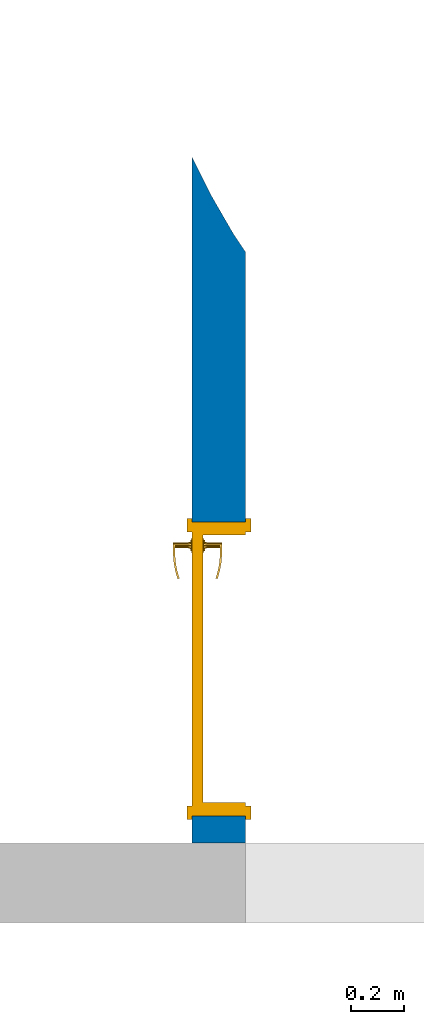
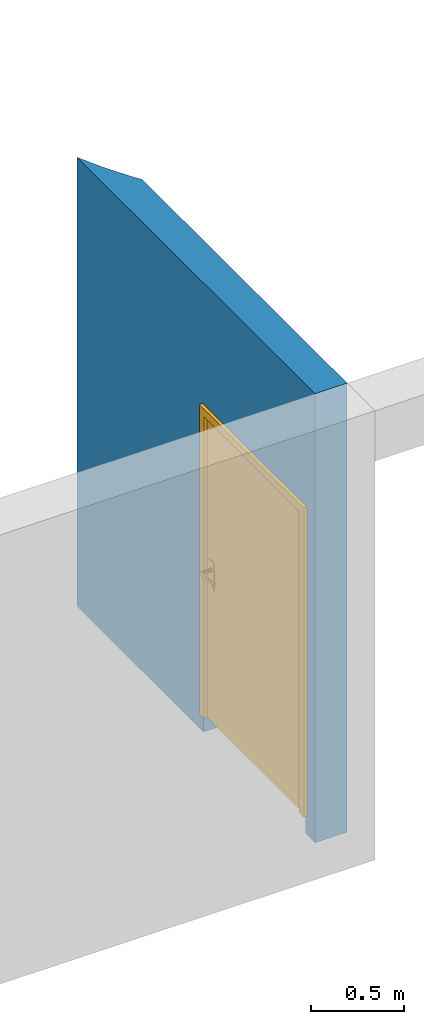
# One storey, part 3 of 6: 1 door, 1 wall, 1 opening.
"""IFC4 building model written with IfcOpenShell, lengths in millimetres."""

from ifc_helpers import new_model, entity, si_unit, converted_unit, derived_unit, direction, frame, origin_with_axes, place, context, subcontext, project, spatial, polygons, material, constituent, constituent_set, type_object, element, fill, save


model = new_model("IFC4")

# Units and contexts
model_context = context("Model", 3, precision=0.01, world=origin_with_axes(), true_north=direction((0.0, 1.0)))
body_context = subcontext(model_context, "Body", "Model", "MODEL_VIEW")
ifc_project = project(units=[si_unit("LENGTHUNIT", "METRE", prefix="MILLI"), si_unit("AREAUNIT", "SQUARE_METRE"), si_unit("VOLUMEUNIT", "CUBIC_METRE"), converted_unit("PLANEANGLEUNIT", "DEGREE", entity("IfcPlaneAngleMeasure", 0.0174532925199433), si_unit("PLANEANGLEUNIT", "RADIAN"), dimensions=[0, 0, 0, 0, 0, 0, 0]), converted_unit("TIMEUNIT", "Year", entity("IfcTimeMeasure", 31557600.0), si_unit("TIMEUNIT", "SECOND"), dimensions=[0, 0, 1, 0, 0, 0, 0]), si_unit("MASSUNIT", "GRAM", prefix="KILO"), si_unit("THERMODYNAMICTEMPERATUREUNIT", "DEGREE_CELSIUS"), si_unit("LUMINOUSINTENSITYUNIT", "LUMEN"), si_unit("ENERGYUNIT", "JOULE", prefix="MEGA"), derived_unit("THERMALCONDUCTANCEUNIT", [(si_unit("POWERUNIT", "WATT"), 1), (si_unit("LENGTHUNIT", "METRE"), -1), (si_unit("THERMODYNAMICTEMPERATUREUNIT", "KELVIN"), -1)]), derived_unit("SPECIFICHEATCAPACITYUNIT", [(si_unit("ENERGYUNIT", "JOULE"), 1), (si_unit("MASSUNIT", "GRAM", prefix="KILO"), -1), (si_unit("THERMODYNAMICTEMPERATUREUNIT", "KELVIN"), -1)]), derived_unit("MASSDENSITYUNIT", [(si_unit("MASSUNIT", "GRAM", prefix="KILO"), 1), (si_unit("VOLUMEUNIT", "CUBIC_METRE"), -1)])], contexts=[model_context])

# Site, building, storey
site_placement = place(None, origin_with_axes())
site = spatial("IfcSite", under=ifc_project, at=site_placement, Name="Exteriér", CompositionType="ELEMENT")
building_placement = place(site_placement, origin_with_axes())
building = spatial("IfcBuilding", under=site, at=building_placement, Name="Univerzitní lezecké centrum", CompositionType="ELEMENT")
storey_placement = place(building_placement, origin_with_axes())
storey = spatial("IfcBuildingStorey", under=building, at=storey_placement, Name="1.NP", CompositionType="ELEMENT", Elevation=0.0)

# Wall, opening, door
ifc_material = material(Name="Beton vyztužený - vnitřní svislé kce")
ifc_constituent = constituent(ifc_material, Name="Beton vyztužený - vnitřní svislé kce")
ifc_constituent_set = constituent_set(constituents=[ifc_constituent], Name="!Vnitřní betonová stěna 200 mm")
wall_type = type_object("IfcWallType", Name="!Vnitřní betonová stěna 200 mm 200", PredefinedType="NOTDEFINED")
wall_placement = place(storey_placement, frame((199.7521361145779, 2610.480756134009, -120.000000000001), z_axis=(0.0, 0.0, 1.0), x_axis=(9.494986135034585e-05, -0.9999999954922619, 0.0)))
wall = element("IfcWall", 1, at=wall_placement, inside=storey, type_object=wall_type, material=ifc_constituent_set, Name="St05", PredefinedType="NOTDEFINED", context=body_context, shape_type="Tessellation", body=[
    polygons([(1410.461746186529, -199.9998917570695, 0.4999999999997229), (1410.461665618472, -5.970421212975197e-05, 0.4999999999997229), (1410.461782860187, -6.705527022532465e-06, 120.000000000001), (1410.461782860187, -199.999999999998, 120.000000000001), (1410.461665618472, -5.970421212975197e-05, 0.0), (1410.461746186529, -199.9998917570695, 0.0), (2510.461828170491, 2.1218390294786e-05, 0.0), (2510.461828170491, 2.1218390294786e-05, 0.4999999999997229), (2510.461782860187, -6.705528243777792e-06, 120.000000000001), (2510.461782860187, 0.0, 2140.000000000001), (1410.461782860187, 0.0, 2140.000000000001), (402.8744665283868, -6.705528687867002e-06, 0.0), (402.8744665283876, -6.705528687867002e-06, 2950.000000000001), (2610.480767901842, 4.917388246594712e-06, 2950.000000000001), (2610.480767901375, 0.0, 0.0), (1410.461782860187, -199.9999999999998, 2140.000000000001), (2510.461667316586, -200.0000522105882, 0.4999999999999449), (2510.461667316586, -200.0000522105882, 0.0), (2610.461777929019, -199.9999999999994, 0.0), (2610.461777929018, -199.9999999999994, 2950.000000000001), (47.00298818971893, -199.9999999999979, 2950.000000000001), (47.00298818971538, -199.9999999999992, 0.0), (2510.461782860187, -199.9999999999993, 2140.000000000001), (2510.461782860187, -199.9999999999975, 120.000000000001), (87.14444738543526, -180.0162361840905, 0.0), (186.242514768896, -131.0410473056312, 0.0), (334.702251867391, -45.34657207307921, 0.0), (334.702251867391, -45.34657207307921, 2950.000000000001), (186.242514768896, -131.0410473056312, 2950.000000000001), (87.14444738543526, -180.0162361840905, 2950.000000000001)], [[[1, 2, 3, 4]], [[5, 2, 1, 6]], [[7, 8, 9, 10, 11, 3, 2, 5, 12, 13, 14, 15]], [[4, 3, 11, 16]], [[17, 18, 19, 20, 21, 22, 6, 1, 4, 16, 23, 24]], [[5, 6, 22, 25, 26, 27, 12]], [[17, 8, 7, 18]], [[8, 17, 24, 9]], [[23, 10, 9, 24]], [[16, 11, 10, 23]], [[27, 28, 13, 12]], [[20, 14, 13, 28, 29, 30, 21]], [[15, 14, 20, 19]], [[18, 7, 15, 19]], [[22, 21, 30, 25]], [[25, 30, 29, 26]], [[26, 29, 28, 27]]], closed=True),
])
opening_placement = place(wall_placement, frame((1960.461782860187, 0.0, 120.000000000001), z_axis=(0.0, 0.0, 1.0), x_axis=(1.0, 0.0, 0.0)))
opening = element("IfcOpeningElement", 2, at=opening_placement, cuts=wall, Name="D13", context=body_context, identifier="Reference", shape_type="Tessellation", body=[
    polygons([(-550.0000000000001, -199.9999999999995, 2020.0), (550.0, -199.9999999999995, 2020.0), (550.0, 0.0, 2020.0), (-550.0000000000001, 0.0, 2020.0), (550.0000000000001, -199.9999999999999, 0.0), (-550.0000000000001, -199.9999999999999, 0.0), (-562.0000000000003, -199.9999999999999, 0.0), (-562.0000000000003, -199.9999999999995, 2032.0), (562.0, -199.9999999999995, 2032.0), (562.0, -199.9999999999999, 0.0), (550.0000000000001, 0.0, 0.0), (562.0, 0.0, 0.0), (562.0, 0.0, 2032.0), (-562.0000000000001, 0.0, 2032.0), (-562.0000000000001, 0.0, 0.0), (-549.9999999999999, 0.0, 0.0), (-550.0000000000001, -201.2763497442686, 0.0), (-562.0000000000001, -201.2763497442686, 0.0), (-562.0000000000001, -201.2763497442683, 2032.0), (562.0, -201.2763497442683, 2032.0), (562.0, -201.2763497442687, 0.0), (550.0000000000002, -201.2763497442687, 0.0), (-550.0000000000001, 1.276349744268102, 0.0), (550.0, 1.276349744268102, 0.0), (562.0, 1.276349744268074, 0.0), (562.0, 1.276349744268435, 2032.0), (-562.0000000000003, 1.27634974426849, 2032.0), (-562.0000000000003, 1.276349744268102, 0.0), (-550.0000000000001, -201.2763497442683, 2020.0), (549.9999999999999, -201.2763497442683, 2020.0)], [[[1, 2, 3, 4]], [[5, 2, 1, 6, 7, 8, 9, 10]], [[2, 5, 11, 3]], [[4, 3, 11, 12, 13, 14, 15, 16]], [[6, 1, 4, 16]], [[6, 17, 18, 7]], [[8, 7, 18, 19]], [[9, 8, 19, 20]], [[10, 9, 20, 21]], [[22, 5, 10, 21]], [[17, 6, 16, 23, 24, 11, 5, 22]], [[11, 24, 25, 12]], [[13, 12, 25, 26]], [[14, 13, 26, 27]], [[15, 14, 27, 28]], [[23, 16, 15, 28]], [[29, 30, 22, 21, 20, 19, 18, 17]], [[24, 23, 28, 27, 26, 25]], [[29, 17, 22, 30]]], closed=True),
])
door_type = type_object("IfcDoorType", Name="Dveře 24", OperationType="SINGLE_SWING_LEFT", PredefinedType="NOTDEFINED")
door_placement = place(opening_placement, frame((500.0, 0.0, 0.0), z_axis=(0.0, 0.0, 1.0), x_axis=(-1.0, 0.0, 0.0)))
door = element("IfcDoor", 3, at=door_placement, inside=storey, type_object=door_type, Name="D13", OverallHeight=2020.0, OverallWidth=1100.0, PredefinedType="NOTDEFINED", context=body_context, shape_type="Tessellation", body=[
    polygons([(1062.0, 0.0, 0.0), (1062.0, -19.00000000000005, 0.0), (1012.0, -19.00000000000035, 0.0), (1012.0, 0.0, 0.0), (1062.0, 0.0, 2032.0), (1062.0, -19.00000000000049, 2032.0), (1012.0, -19.0000000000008, 1982.0), (1012.0, 0.0, 1982.0)], [[[1, 2, 3, 4]], [[5, 6, 2, 1]], [[3, 2, 6, 7]], [[4, 3, 7, 8]], [[5, 1, 4, 8]], [[8, 7, 6, 5]]], closed=True),
    polygons([(-61.99999999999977, 0.0, 2032.0), (-61.99999999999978, -19.00000000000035, 2032.0), (-11.99999999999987, -19.00000000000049, 1982.0), (-11.99999999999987, 0.0, 1982.0), (-61.99999999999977, 0.0, 0.0), (-61.99999999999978, -19.00000000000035, 0.0), (-11.99999999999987, -19.00000000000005, 0.0), (-11.99999999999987, 0.0, 0.0)], [[[1, 2, 3, 4]], [[5, 6, 2, 1]], [[3, 2, 6, 7]], [[4, 3, 7, 8]], [[5, 1, 4, 8]], [[8, 7, 6, 5]]], closed=True),
    polygons([(1012.0, 218.9999999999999, 0.0), (1062.0, 218.9999999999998, 0.0), (1062.0, 199.9999999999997, 0.0), (1012.0, 199.9999999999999, 0.0), (1062.0, 218.9999999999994, 2032.0), (1012.0, 218.9999999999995, 1982.0), (1062.0, 199.9999999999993, 2032.0), (1012.0, 199.9999999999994, 1982.0)], [[[1, 2, 3, 4]], [[5, 2, 1, 6]], [[2, 5, 7, 3]], [[4, 3, 7, 8]], [[6, 1, 4, 8]], [[5, 6, 8, 7]]], closed=True),
    polygons([(-11.99999999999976, 218.9999999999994, 1982.0), (-62.00000000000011, 218.9999999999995, 2032.0), (-62.00000000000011, 199.9999999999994, 2032.0), (-11.99999999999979, 199.9999999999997, 1982.0), (-62.00000000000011, 218.9999999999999, 0.0), (-11.99999999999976, 218.9999999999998, 0.0), (-62.00000000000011, 199.9999999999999, 0.0), (-11.99999999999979, 199.9999999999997, 0.0)], [[[1, 2, 3, 4]], [[5, 2, 1, 6]], [[2, 5, 7, 3]], [[4, 3, 7, 8]], [[6, 1, 4, 8]], [[5, 6, 8, 7]]], closed=True),
    polygons([(1000.0, 159.9999999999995, 1970.0), (1000.0, 159.9999999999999, 0.0), (1000.0, 0.0, 0.0), (1000.0, 0.0, 1970.0), (1012.0, 159.9999999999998, 1970.0), (1012.0, 159.9999999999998, 0.0), (1012.0, 199.9999999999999, 0.0), (1050.0, 199.9999999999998, 0.0), (1050.0, 0.0, 0.0), (1050.0, 0.0, 1970.0), (1012.0, 199.9999999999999, 1970.0), (1050.0, 199.9999999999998, 1970.0)], [[[1, 2, 3, 4]], [[1, 5, 6, 2]], [[2, 6, 7, 8, 9, 3]], [[4, 3, 9, 10]], [[11, 5, 1, 4, 10, 12]], [[5, 11, 7, 6]], [[7, 11, 12, 8]], [[9, 8, 12, 10]]], closed=True),
    polygons([(0.0, 159.9999999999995, 1970.0), (-11.99999999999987, 159.9999999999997, 1970.0), (-11.99999999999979, 199.9999999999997, 1970.0), (-49.99999999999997, 199.9999999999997, 1970.0), (-50.00000000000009, 0.0, 1970.0), (0.0, 0.0, 1970.0), (0.0, 160.0, 0.0), (-11.99999999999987, 159.9999999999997, 0.0), (-11.99999999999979, 199.9999999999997, 0.0), (-49.99999999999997, 199.9999999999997, 0.0), (-50.00000000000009, 0.0, 0.0), (0.0, 0.0, 0.0)], [[[1, 2, 3, 4, 5, 6]], [[2, 1, 7, 8]], [[3, 2, 8, 9]], [[3, 9, 10, 4]], [[5, 4, 10, 11]], [[6, 5, 11, 12]], [[7, 1, 6, 12]], [[9, 8, 7, 12, 11, 10]]], closed=True),
    polygons([(-11.99999999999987, 159.9999999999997, 0.0), (-11.99999999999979, 199.9999999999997, 0.0), (1012.0, 199.9999999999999, 0.0), (1012.0, 159.9999999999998, 0.0), (-11.99999999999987, 159.9999999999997, 1982.0), (-11.99999999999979, 199.9999999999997, 1982.0), (1012.0, 199.9999999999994, 1982.0), (1012.0, 159.9999999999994, 1982.0)], [[[1, 2, 3, 4]], [[5, 6, 2, 1]], [[3, 2, 6, 7]], [[4, 3, 7, 8]], [[5, 1, 4, 8]], [[8, 7, 6, 5]]], closed=True),
    polygons([(1062.0, -19.00000000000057, 2032.0), (1012.0, -19.00000000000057, 1982.0), (1012.0, 0.0, 1982.0), (1062.0, 0.0, 2032.0), (-62.0, -19.00000000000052, 2032.0), (-11.99999999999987, -19.00000000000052, 1982.0), (-11.99999999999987, 0.0, 1982.0), (-61.99999999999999, 0.0, 2032.0)], [[[1, 2, 3, 4]], [[1, 5, 6, 2]], [[2, 6, 7, 3]], [[4, 3, 7, 8]], [[5, 1, 4, 8]], [[6, 5, 8, 7]]], closed=True),
    polygons([(1062.0, 218.9999999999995, 2032.0), (1062.0, 199.9999999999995, 2032.0), (1012.0, 199.9999999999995, 1982.0), (1012.0, 218.9999999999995, 1982.0), (-62.0, 218.9999999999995, 2032.0), (-62.0, 199.9999999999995, 2032.0), (-11.9999999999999, 199.9999999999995, 1982.0), (-11.99999999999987, 218.9999999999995, 1982.0)], [[[1, 2, 3, 4]], [[5, 6, 2, 1]], [[2, 6, 7, 3]], [[4, 3, 7, 8]], [[1, 4, 8, 5]], [[8, 7, 6, 5]]], closed=True),
    polygons([(1012.0, 199.9999999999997, 1982.0), (-11.9999999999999, 199.9999999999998, 1982.0), (-11.9999999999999, 199.9999999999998, 1970.0), (-49.99999999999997, 199.9999999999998, 1970.0), (-49.99999999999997, 199.9999999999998, 2020.0), (1050.0, 199.9999999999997, 2020.0), (1050.0, 199.9999999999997, 1970.0), (1012.0, 199.9999999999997, 1970.0), (1012.0, 159.9999999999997, 1982.0), (-11.99999999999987, 159.9999999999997, 1982.0), (-11.99999999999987, 159.9999999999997, 1970.0), (0.0, 159.9999999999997, 1970.0), (0.0, 0.0, 1970.0), (-49.99999999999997, 0.0, 1970.0), (-49.99999999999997, 0.0, 2020.0), (1050.0, 0.0, 2020.0), (1050.0, 0.0, 1970.0), (1012.0, 159.9999999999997, 1970.0), (1000.0, 0.0, 1970.0), (1000.0, 159.9999999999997, 1970.0)], [[[1, 2, 3, 4, 5, 6, 7, 8]], [[1, 9, 10, 2]], [[2, 10, 11, 3]], [[11, 12, 13, 14, 4, 3]], [[5, 4, 14, 15]], [[6, 5, 15, 16]], [[7, 6, 16, 17]], [[18, 8, 7, 17, 19, 20]], [[8, 18, 9, 1]], [[11, 10, 9, 18, 20, 12]], [[20, 19, 13, 12]], [[13, 19, 17, 16, 15, 14]]], closed=True),
    polygons([(990.5, 159.9999999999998, 1060.0), (933.5000000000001, 159.9999999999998, 1060.0), (933.5000000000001, 156.9999999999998, 1060.0), (990.5000000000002, 156.9999999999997, 1060.0), (990.5, 159.9999999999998, 870.0), (933.5000000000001, 159.9999999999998, 870.0), (933.5000000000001, 156.9999999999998, 870.0), (990.5000000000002, 156.9999999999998, 870.0)], [[[1, 2, 3, 4]], [[1, 5, 6, 2]], [[2, 6, 7, 3]], [[4, 3, 7, 8]], [[5, 1, 4, 8]], [[6, 5, 8, 7]]], closed=True),
    polygons([(962.0000000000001, 95.99999999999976, 990.0), (967.0, 95.99999999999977, 991.3397459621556), (967.0, 88.99999999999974, 991.3397459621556), (962.0000000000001, 88.99999999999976, 990.0), (937.0000000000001, 95.99999999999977, 990.0), (937.0000000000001, 95.99999999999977, 1010.0), (962.0000000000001, 95.99999999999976, 1010.0), (967.0, 95.99999999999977, 1008.660254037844), (970.6602540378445, 95.99999999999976, 1005.0), (971.9999999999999, 95.99999999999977, 1000.0), (970.6602540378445, 95.99999999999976, 995.0), (970.6602540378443, 88.99999999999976, 995.0), (972.0000000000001, 88.99999999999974, 1000.0), (970.6602540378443, 88.99999999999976, 1005.0), (967.0, 88.99999999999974, 1008.660254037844), (962.0000000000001, 88.99999999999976, 1010.0), (937.0000000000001, 88.99999999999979, 1010.0), (937.0000000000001, 88.99999999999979, 990.0)], [[[1, 2, 3, 4]], [[1, 5, 6, 7, 8, 9, 10, 11, 2]], [[2, 11, 12, 3]], [[4, 3, 12, 13, 14, 15, 16, 17, 18]], [[5, 1, 4, 18]], [[6, 5, 18, 17]], [[7, 6, 17, 16]], [[8, 7, 16, 15]], [[9, 8, 15, 14]], [[10, 9, 14, 13]], [[11, 10, 13, 12]]], closed=True),
    polygons([(937.0000000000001, 95.99999999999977, 1010.0), (923.9017171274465, 95.99999999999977, 1009.607300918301), (923.5960905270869, 88.99999999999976, 1009.607300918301), (937.0000000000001, 95.99999999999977, 990.0), (923.9017171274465, 95.99999999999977, 990.3926990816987), (896.8902834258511, 91.33645537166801, 1008.821902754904), (937.0000000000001, 88.99999999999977, 1010.0), (937.0000000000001, 88.99999999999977, 990.0), (897.8048372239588, 98.2831811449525, 991.1780972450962), (897.8048372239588, 98.2831811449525, 1008.821902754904), (896.8902834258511, 91.33645537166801, 991.1780972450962), (923.5960905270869, 88.99999999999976, 990.3926990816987), (872.0062561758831, 102.8321670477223, 991.9634954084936), (872.0062561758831, 102.8321670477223, 1008.036504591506), (870.4897354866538, 95.99158427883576, 1008.036504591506), (870.4897354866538, 95.99158427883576, 991.9634954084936), (846.7023167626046, 109.6123371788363, 992.7488935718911), (846.7023167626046, 109.6123371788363, 1007.251106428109), (844.5953708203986, 102.9299583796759, 1007.251106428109), (844.5953708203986, 102.9299583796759, 992.7488935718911), (838.8294420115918, 112.4778292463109, 993.0), (838.8294420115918, 112.4778292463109, 1007.0), (836.538795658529, 105.8623119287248, 1007.0), (836.538795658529, 105.8623119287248, 993.0)], [[[1, 2, 3]], [[1, 4, 5, 2]], [[2, 6, 3]], [[1, 3, 7]], [[5, 4, 8]], [[2, 5, 9, 10]], [[2, 10, 6]], [[3, 6, 11, 12]], [[7, 3, 12, 8]], [[5, 8, 12]], [[9, 5, 12]], [[10, 9, 13, 14]], [[10, 15, 6]], [[6, 15, 16, 11]], [[9, 12, 11]], [[13, 9, 11]], [[14, 13, 17, 18]], [[10, 14, 15]], [[15, 19, 20, 16]], [[13, 11, 16]], [[17, 13, 16]], [[18, 17, 21, 22]], [[14, 18, 19]], [[14, 19, 15]], [[19, 23, 24, 20]], [[17, 16, 20]], [[21, 17, 20]], [[22, 21, 24, 23]], [[18, 22, 23]], [[18, 23, 19]], [[21, 20, 24]]], closed=False),
    polygons([(951.6076951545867, 146.9999999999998, 994.0), (950.0000000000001, 146.9999999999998, 1000.0), (949.0, 156.9999999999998, 1000.0), (950.7416697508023, 156.9999999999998, 993.5), (956.0000000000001, 146.9999999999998, 989.6076951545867), (961.9999999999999, 146.9999999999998, 988.0), (968.0000000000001, 146.9999999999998, 989.6076951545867), (972.3923048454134, 146.9999999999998, 994.0), (974.0000000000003, 146.9999999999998, 1000.0), (972.3923048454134, 146.9999999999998, 1006.0), (968.0000000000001, 146.9999999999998, 1010.392304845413), (961.9999999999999, 146.9999999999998, 1012.0), (956.0000000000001, 146.9999999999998, 1010.392304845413), (951.6076951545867, 146.9999999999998, 1006.0), (950.7416697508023, 156.9999999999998, 1006.5), (955.5000000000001, 156.9999999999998, 1011.258330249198), (961.9999999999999, 156.9999999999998, 1013.0), (968.5, 156.9999999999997, 1011.258330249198), (973.2583302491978, 156.9999999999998, 1006.5), (975.0000000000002, 156.9999999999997, 1000.0), (973.2583302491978, 156.9999999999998, 993.4999999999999), (968.5, 156.9999999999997, 988.7416697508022), (961.9999999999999, 156.9999999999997, 987.0), (955.5000000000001, 156.9999999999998, 988.7416697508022)], [[[1, 2, 3, 4]], [[2, 1, 5, 6, 7, 8, 9, 10, 11, 12, 13, 14]], [[2, 14, 15, 3]], [[3, 15, 16, 17, 18, 19, 20, 21, 22, 23, 24, 4]], [[5, 1, 4, 24]], [[6, 5, 24, 23]], [[7, 6, 23, 22]], [[8, 7, 22, 21]], [[9, 8, 21, 20]], [[10, 9, 20, 19]], [[11, 10, 19, 18]], [[12, 11, 18, 17]], [[13, 12, 17, 16]], [[14, 13, 16, 15]]], closed=True),
    polygons([(944.6794919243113, 152.9999999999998, 895.0), (942.0000000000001, 152.9999999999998, 905.0), (940.0000000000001, 156.9999999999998, 905.0), (942.9474411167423, 156.9999999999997, 894.0), (952.0000000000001, 152.9999999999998, 887.6794919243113), (962.0000000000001, 152.9999999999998, 885.0), (971.9999999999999, 152.9999999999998, 887.6794919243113), (979.3205080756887, 152.9999999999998, 895.0), (982.0000000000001, 152.9999999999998, 905.0), (979.3205080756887, 152.9999999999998, 915.0), (971.9999999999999, 152.9999999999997, 922.3205080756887), (962.0000000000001, 152.9999999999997, 925.0), (952.0000000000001, 152.9999999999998, 922.3205080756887), (944.6794919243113, 152.9999999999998, 915.0), (942.9474411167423, 156.9999999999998, 916.0), (951.0, 156.9999999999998, 924.0525588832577), (961.9999999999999, 156.9999999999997, 927.0), (973.0, 156.9999999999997, 924.0525588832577), (981.0525588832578, 156.9999999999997, 916.0), (983.9999999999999, 156.9999999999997, 905.0), (981.0525588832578, 156.9999999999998, 894.0), (973.0, 156.9999999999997, 885.9474411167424), (961.9999999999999, 156.9999999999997, 883.0), (951.0, 156.9999999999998, 885.9474411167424)], [[[1, 2, 3, 4]], [[2, 1, 5, 6, 7, 8, 9, 10, 11, 12, 13, 14]], [[2, 14, 15, 3]], [[3, 15, 16, 17, 18, 19, 20, 21, 22, 23, 24, 4]], [[5, 1, 4, 24]], [[6, 5, 24, 23]], [[7, 6, 23, 22]], [[8, 7, 22, 21]], [[9, 8, 21, 20]], [[10, 9, 20, 19]], [[11, 10, 19, 18]], [[12, 11, 18, 17]], [[13, 12, 17, 16]], [[14, 13, 16, 15]]], closed=True),
    polygons([(957.0502525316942, 150.9999999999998, 909.0502525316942), (955.0, 150.9999999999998, 914.0), (953.9999999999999, 152.9999999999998, 914.0), (956.3431457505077, 152.9999999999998, 908.3431457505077), (962.0000000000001, 150.9999999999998, 907.0), (966.9497474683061, 150.9999999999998, 909.0502525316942), (969.0000000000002, 150.9999999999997, 914.0), (966.9497474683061, 150.9999999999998, 918.9497474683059), (962.0000000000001, 150.9999999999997, 921.0), (957.0502525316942, 150.9999999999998, 918.9497474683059), (956.3431457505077, 152.9999999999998, 919.6568542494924), (962.0000000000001, 152.9999999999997, 922.0), (967.6568542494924, 152.9999999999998, 919.6568542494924), (970.0000000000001, 152.9999999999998, 914.0), (967.6568542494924, 152.9999999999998, 908.3431457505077), (962.0000000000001, 152.9999999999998, 906.0)], [[[1, 2, 3, 4]], [[2, 1, 5, 6, 7, 8, 9, 10]], [[2, 10, 11, 3]], [[3, 11, 12, 13, 14, 15, 16, 4]], [[5, 1, 4, 16]], [[6, 5, 16, 15]], [[7, 6, 15, 14]], [[8, 7, 14, 13]], [[9, 8, 13, 12]], [[10, 9, 12, 11]]], closed=True),
    polygons([(961.9999999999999, 146.9999999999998, 1010.0), (957.0, 146.9999999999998, 1008.660254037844), (957.0, 95.99999999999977, 1008.660254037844), (962.0000000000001, 95.99999999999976, 1010.0), (967.0, 146.9999999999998, 1008.660254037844), (970.6602540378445, 146.9999999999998, 1005.0), (972.0000000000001, 146.9999999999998, 1000.0), (970.6602540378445, 146.9999999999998, 995.0), (967.0, 146.9999999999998, 991.3397459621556), (961.9999999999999, 146.9999999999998, 990.0), (957.0, 146.9999999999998, 991.3397459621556), (953.3397459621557, 146.9999999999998, 995.0), (952.0000000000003, 146.9999999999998, 1000.0), (953.3397459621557, 146.9999999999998, 1005.0), (953.3397459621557, 95.99999999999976, 1005.0), (952.0000000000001, 95.99999999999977, 1000.0), (953.3397459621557, 95.99999999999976, 995.0), (957.0, 95.99999999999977, 991.3397459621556), (962.0000000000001, 95.99999999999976, 990.0), (967.0, 95.99999999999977, 991.3397459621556), (970.6602540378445, 95.99999999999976, 995.0), (971.9999999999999, 95.99999999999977, 1000.0), (970.6602540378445, 95.99999999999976, 1005.0), (967.0, 95.99999999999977, 1008.660254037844)], [[[1, 2, 3, 4]], [[1, 5, 6, 7, 8, 9, 10, 11, 12, 13, 14, 2]], [[2, 14, 15, 3]], [[4, 3, 15, 16, 17, 18, 19, 20, 21, 22, 23, 24]], [[5, 1, 4, 24]], [[6, 5, 24, 23]], [[7, 6, 23, 22]], [[8, 7, 22, 21]], [[9, 8, 21, 20]], [[10, 9, 20, 19]], [[11, 10, 19, 18]], [[12, 11, 18, 17]], [[13, 12, 17, 16]], [[14, 13, 16, 15]]], closed=True),
    polygons([(990.5000000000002, 199.9999999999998, 1060.0), (990.5, 202.9999999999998, 1060.0), (933.5000000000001, 202.9999999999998, 1060.0), (933.5000000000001, 199.9999999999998, 1060.0), (990.5000000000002, 199.9999999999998, 870.0), (990.5, 202.9999999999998, 870.0), (933.5000000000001, 202.9999999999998, 870.0), (933.5000000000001, 199.9999999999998, 870.0)], [[[1, 2, 3, 4]], [[5, 6, 2, 1]], [[2, 6, 7, 3]], [[4, 3, 7, 8]], [[1, 4, 8, 5]], [[8, 7, 6, 5]]], closed=True),
    polygons([(962.0000000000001, 263.9999999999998, 990.0), (962.0000000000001, 270.9999999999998, 990.0), (967.0, 270.9999999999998, 991.3397459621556), (967.0000000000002, 263.9999999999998, 991.3397459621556), (937.0, 263.9999999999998, 990.0), (937.0, 270.9999999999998, 990.0), (937.0, 270.9999999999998, 1010.0), (962.0000000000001, 270.9999999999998, 1010.0), (967.0, 270.9999999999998, 1008.660254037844), (970.6602540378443, 270.9999999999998, 1005.0), (972.0000000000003, 270.9999999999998, 1000.0), (970.6602540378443, 270.9999999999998, 995.0), (970.6602540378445, 263.9999999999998, 995.0), (972.0000000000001, 263.9999999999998, 1000.0), (970.6602540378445, 263.9999999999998, 1005.0), (967.0000000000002, 263.9999999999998, 1008.660254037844), (962.0000000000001, 263.9999999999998, 1010.0), (937.0, 263.9999999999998, 1010.0)], [[[1, 2, 3, 4]], [[5, 6, 2, 1]], [[2, 6, 7, 8, 9, 10, 11, 12, 3]], [[4, 3, 12, 13]], [[1, 4, 13, 14, 15, 16, 17, 18, 5]], [[18, 7, 6, 5]], [[17, 8, 7, 18]], [[16, 9, 8, 17]], [[15, 10, 9, 16]], [[14, 11, 10, 15]], [[13, 12, 11, 14]]], closed=True),
    polygons([(937.0, 263.9999999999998, 1010.0), (923.5960905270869, 270.9999999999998, 1009.607300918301), (923.9017171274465, 263.9999999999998, 1009.607300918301), (937.0, 270.9999999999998, 1010.0), (896.8902834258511, 268.6635446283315, 1008.821902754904), (923.9017171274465, 263.9999999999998, 990.3926990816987), (937.0, 263.9999999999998, 990.0), (937.0, 270.9999999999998, 990.0), (923.5960905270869, 270.9999999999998, 990.3926990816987), (896.8902834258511, 268.6635446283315, 991.1780972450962), (897.8048372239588, 261.7168188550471, 1008.821902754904), (897.8048372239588, 261.7168188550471, 991.1780972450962), (870.4897354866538, 264.0084157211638, 991.9634954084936), (870.4897354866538, 264.0084157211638, 1008.036504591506), (872.0062561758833, 257.1678329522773, 1008.036504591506), (872.0062561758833, 257.1678329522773, 991.9634954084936), (844.5953708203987, 257.0700416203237, 992.7488935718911), (844.5953708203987, 257.0700416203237, 1007.251106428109), (846.7023167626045, 250.3876628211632, 1007.251106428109), (846.7023167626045, 250.3876628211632, 992.7488935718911), (836.538795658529, 254.1376880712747, 993.0), (836.538795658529, 254.1376880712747, 1007.0), (838.8294420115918, 247.5221707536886, 1007.0), (838.8294420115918, 247.5221707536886, 993.0)], [[[1, 2, 3]], [[1, 4, 2]], [[3, 2, 5]], [[1, 3, 6, 7]], [[4, 8, 9, 2]], [[2, 9, 10, 5]], [[3, 5, 11]], [[3, 11, 12, 6]], [[6, 8, 7]], [[6, 9, 8]], [[12, 10, 9]], [[5, 10, 13, 14]], [[11, 5, 14]], [[11, 15, 16, 12]], [[12, 9, 6]], [[16, 10, 12]], [[16, 13, 10]], [[14, 13, 17, 18]], [[11, 14, 15]], [[15, 19, 20, 16]], [[20, 13, 16]], [[20, 17, 13]], [[18, 17, 21, 22]], [[15, 14, 18]], [[15, 18, 19]], [[19, 23, 24, 20]], [[24, 17, 20]], [[24, 21, 17]], [[23, 22, 21, 24]], [[19, 18, 22]], [[19, 22, 23]]], closed=False),
    polygons([(951.6076951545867, 212.9999999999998, 994.0), (950.7416697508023, 202.9999999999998, 993.5), (949.0, 202.9999999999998, 1000.0), (950.0000000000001, 212.9999999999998, 1000.0), (956.0000000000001, 212.9999999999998, 989.6076951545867), (955.5000000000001, 202.9999999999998, 988.7416697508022), (961.9999999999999, 202.9999999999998, 987.0), (968.5, 202.9999999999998, 988.7416697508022), (973.2583302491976, 202.9999999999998, 993.4999999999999), (975.0000000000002, 202.9999999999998, 1000.0), (973.2583302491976, 202.9999999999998, 1006.5), (968.5, 202.9999999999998, 1011.258330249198), (961.9999999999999, 202.9999999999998, 1013.0), (955.5000000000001, 202.9999999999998, 1011.258330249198), (950.7416697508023, 202.9999999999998, 1006.5), (951.6076951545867, 212.9999999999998, 1006.0), (956.0000000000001, 212.9999999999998, 1010.392304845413), (961.9999999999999, 212.9999999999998, 1012.0), (968.0000000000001, 212.9999999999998, 1010.392304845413), (972.3923048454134, 212.9999999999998, 1006.0), (974.0000000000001, 212.9999999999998, 1000.0), (972.3923048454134, 212.9999999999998, 994.0), (968.0000000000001, 212.9999999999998, 989.6076951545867), (961.9999999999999, 212.9999999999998, 988.0)], [[[1, 2, 3, 4]], [[5, 6, 2, 1]], [[3, 2, 6, 7, 8, 9, 10, 11, 12, 13, 14, 15]], [[4, 3, 15, 16]], [[4, 16, 17, 18, 19, 20, 21, 22, 23, 24, 5, 1]], [[24, 7, 6, 5]], [[23, 8, 7, 24]], [[22, 9, 8, 23]], [[21, 10, 9, 22]], [[20, 11, 10, 21]], [[19, 12, 11, 20]], [[18, 13, 12, 19]], [[17, 14, 13, 18]], [[16, 15, 14, 17]]], closed=True),
    polygons([(944.6794919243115, 206.9999999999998, 895.0), (942.9474411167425, 202.9999999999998, 894.0), (939.9999999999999, 202.9999999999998, 905.0), (942.0000000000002, 206.9999999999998, 905.0), (952.0000000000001, 206.9999999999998, 887.6794919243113), (951.0, 202.9999999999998, 885.9474411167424), (961.9999999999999, 202.9999999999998, 883.0), (973.0, 202.9999999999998, 885.9474411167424), (981.0525588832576, 202.9999999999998, 894.0), (984.0000000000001, 202.9999999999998, 905.0), (981.0525588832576, 202.9999999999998, 916.0), (973.0, 202.9999999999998, 924.0525588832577), (961.9999999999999, 202.9999999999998, 927.0), (951.0, 202.9999999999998, 924.0525588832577), (942.9474411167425, 202.9999999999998, 916.0), (944.6794919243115, 206.9999999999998, 915.0), (952.0000000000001, 206.9999999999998, 922.3205080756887), (962.0000000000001, 206.9999999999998, 925.0), (972.0000000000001, 206.9999999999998, 922.3205080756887), (979.3205080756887, 206.9999999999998, 915.0), (982.0000000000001, 206.9999999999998, 905.0), (979.3205080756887, 206.9999999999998, 895.0), (972.0000000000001, 206.9999999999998, 887.6794919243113), (962.0000000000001, 206.9999999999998, 885.0)], [[[1, 2, 3, 4]], [[5, 6, 2, 1]], [[3, 2, 6, 7, 8, 9, 10, 11, 12, 13, 14, 15]], [[4, 3, 15, 16]], [[4, 16, 17, 18, 19, 20, 21, 22, 23, 24, 5, 1]], [[24, 7, 6, 5]], [[23, 8, 7, 24]], [[22, 9, 8, 23]], [[21, 10, 9, 22]], [[20, 11, 10, 21]], [[19, 12, 11, 20]], [[18, 13, 12, 19]], [[17, 14, 13, 18]], [[16, 15, 14, 17]]], closed=True),
    polygons([(957.0502525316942, 208.9999999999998, 909.0502525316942), (956.3431457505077, 206.9999999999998, 908.3431457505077), (954.0000000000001, 206.9999999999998, 914.0), (955.0, 208.9999999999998, 914.0), (962.0000000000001, 208.9999999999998, 907.0), (962.0000000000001, 206.9999999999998, 906.0), (967.6568542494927, 206.9999999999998, 908.3431457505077), (969.9999999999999, 206.9999999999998, 914.0), (967.6568542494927, 206.9999999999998, 919.6568542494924), (962.0000000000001, 206.9999999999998, 922.0), (956.3431457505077, 206.9999999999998, 919.6568542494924), (957.0502525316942, 208.9999999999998, 918.9497474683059), (962.0000000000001, 208.9999999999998, 921.0), (966.9497474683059, 208.9999999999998, 918.9497474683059), (969.0, 208.9999999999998, 914.0), (966.9497474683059, 208.9999999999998, 909.0502525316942)], [[[1, 2, 3, 4]], [[5, 6, 2, 1]], [[3, 2, 6, 7, 8, 9, 10, 11]], [[4, 3, 11, 12]], [[4, 12, 13, 14, 15, 16, 5, 1]], [[16, 7, 6, 5]], [[15, 8, 7, 16]], [[14, 9, 8, 15]], [[13, 10, 9, 14]], [[12, 11, 10, 13]]], closed=True),
    polygons([(961.9999999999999, 212.9999999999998, 1010.0), (962.0000000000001, 263.9999999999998, 1010.0), (957.0, 263.9999999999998, 1008.660254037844), (957.0000000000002, 212.9999999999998, 1008.660254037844), (967.0, 212.9999999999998, 1008.660254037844), (967.0000000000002, 263.9999999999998, 1008.660254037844), (970.6602540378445, 263.9999999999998, 1005.0), (972.0000000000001, 263.9999999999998, 1000.0), (970.6602540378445, 263.9999999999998, 995.0), (967.0000000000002, 263.9999999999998, 991.3397459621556), (962.0000000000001, 263.9999999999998, 990.0), (957.0, 263.9999999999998, 991.3397459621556), (953.3397459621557, 263.9999999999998, 995.0), (952.0000000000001, 263.9999999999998, 1000.0), (953.3397459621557, 263.9999999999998, 1005.0), (953.3397459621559, 212.9999999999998, 1005.0), (952.0000000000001, 212.9999999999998, 1000.0), (953.3397459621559, 212.9999999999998, 995.0), (957.0000000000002, 212.9999999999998, 991.3397459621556), (961.9999999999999, 212.9999999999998, 990.0), (967.0, 212.9999999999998, 991.3397459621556), (970.6602540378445, 212.9999999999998, 995.0), (972.0000000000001, 212.9999999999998, 1000.0), (970.6602540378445, 212.9999999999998, 1005.0)], [[[1, 2, 3, 4]], [[5, 6, 2, 1]], [[2, 6, 7, 8, 9, 10, 11, 12, 13, 14, 15, 3]], [[4, 3, 15, 16]], [[1, 4, 16, 17, 18, 19, 20, 21, 22, 23, 24, 5]], [[24, 7, 6, 5]], [[23, 8, 7, 24]], [[22, 9, 8, 23]], [[21, 10, 9, 22]], [[20, 11, 10, 21]], [[19, 12, 11, 20]], [[18, 13, 12, 19]], [[17, 14, 13, 18]], [[16, 15, 14, 17]]], closed=True),
])
fill(opening, door)

save(model, "model.ifc")
